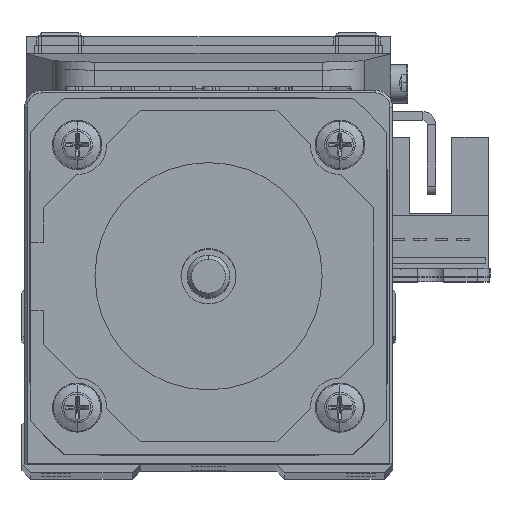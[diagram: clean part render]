
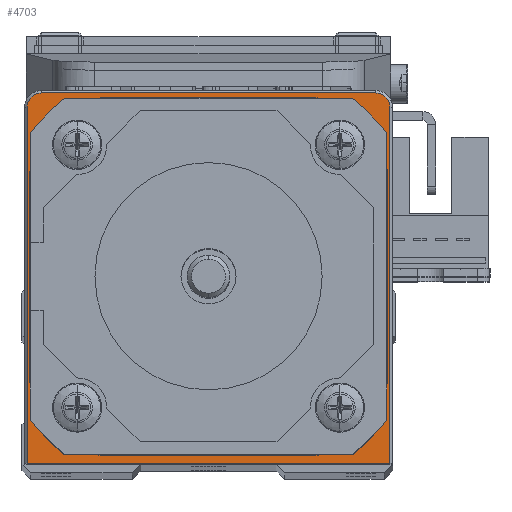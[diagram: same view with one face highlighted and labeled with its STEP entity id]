
A CAD part, top view. The second image highlights one B-rep face of the part: STEP entity #4703.
In plain terms, the highlighted planar face has unit normal (0, 0, 1).
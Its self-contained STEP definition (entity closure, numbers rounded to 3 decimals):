
#959 = VERTEX_POINT ( 'NONE', #26956 ) ;
#1696 = EDGE_CURVE ( 'NONE', #40074, #33334, #71675, .T. ) ;
#2711 = CARTESIAN_POINT ( 'NONE',  ( -19.7, 21.7, 26.5 ) ) ;
#3236 = CIRCLE ( 'NONE', #45871, 1.7 ) ;
#3267 = PLANE ( 'NONE',  #11215 ) ;
#3287 = CARTESIAN_POINT ( 'NONE',  ( 19.7, 20., 26.5 ) ) ;
#4012 = VECTOR ( 'NONE', #4159, 1000. ) ;
#4159 = DIRECTION ( 'NONE',  ( 0., 1., 0. ) ) ;
#4535 = EDGE_LOOP ( 'NONE', ( #69820, #58933 ) ) ;
#4703 = ADVANCED_FACE ( 'NONE', ( #32248, #55539 ), #3267, .T. ) ;
#8451 = CARTESIAN_POINT ( 'NONE',  ( -10., 0., 26.5 ) ) ;
#8593 = ORIENTED_EDGE ( 'NONE', *, *, #18807, .T. ) ;
#9533 = CARTESIAN_POINT ( 'NONE',  ( -21.4, -22., 26.5 ) ) ;
#10273 = VECTOR ( 'NONE', #68382, 1000. ) ;
#11215 = AXIS2_PLACEMENT_3D ( 'NONE', #26518, #49791, #73061 ) ;
#13456 = CIRCLE ( 'NONE', #56147, 10. ) ;
#15511 = DIRECTION ( 'NONE',  ( 1., 0., 0. ) ) ;
#17006 = EDGE_CURVE ( 'NONE', #36954, #959, #33148, .T. ) ;
#17547 = VERTEX_POINT ( 'NONE', #39522 ) ;
#17678 = CARTESIAN_POINT ( 'NONE',  ( 0., 0., 26.5 ) ) ;
#18807 = EDGE_CURVE ( 'NONE', #49327, #36954, #44519, .T. ) ;
#19705 = ORIENTED_EDGE ( 'NONE', *, *, #32133, .T. ) ;
#20085 = ORIENTED_EDGE ( 'NONE', *, *, #50710, .T. ) ;
#20377 = DIRECTION ( 'NONE',  ( 0., 0., 1. ) ) ;
#21809 = LINE ( 'NONE', #45084, #10273 ) ;
#22104 = CARTESIAN_POINT ( 'NONE',  ( -19.7, 20., 26.5 ) ) ;
#24690 = LINE ( 'NONE', #47978, #54059 ) ;
#26518 = CARTESIAN_POINT ( 'NONE',  ( 0., 0., 26.5 ) ) ;
#26541 = DIRECTION ( 'NONE',  ( 0., 0., 1. ) ) ;
#26956 = CARTESIAN_POINT ( 'NONE',  ( 21.4, 20., 26.5 ) ) ;
#30177 = ORIENTED_EDGE ( 'NONE', *, *, #39156, .T. ) ;
#30771 = EDGE_LOOP ( 'NONE', ( #8593, #69452, #30177, #49394, #20085, #19705 ) ) ;
#31372 = CIRCLE ( 'NONE', #74021, 1.7 ) ;
#32133 = EDGE_CURVE ( 'NONE', #69172, #49327, #21809, .T. ) ;
#32248 = FACE_OUTER_BOUND ( 'NONE', #30771, .T. ) ;
#33148 = LINE ( 'NONE', #56436, #4012 ) ;
#33334 = VERTEX_POINT ( 'NONE', #53813 ) ;
#36954 = VERTEX_POINT ( 'NONE', #67184 ) ;
#38786 = AXIS2_PLACEMENT_3D ( 'NONE', #17678, #40983, #64253 ) ;
#39156 = EDGE_CURVE ( 'NONE', #959, #17547, #31372, .T. ) ;
#39522 = CARTESIAN_POINT ( 'NONE',  ( 19.7, 21.7, 26.5 ) ) ;
#40074 = VERTEX_POINT ( 'NONE', #8451 ) ;
#40983 = DIRECTION ( 'NONE',  ( 0., 0., 1. ) ) ;
#43649 = DIRECTION ( 'NONE',  ( 1., 0., 0. ) ) ;
#44012 = EDGE_CURVE ( 'NONE', #33334, #40074, #13456, .T. ) ;
#44519 = LINE ( 'NONE', #67824, #62781 ) ;
#45084 = CARTESIAN_POINT ( 'NONE',  ( -21.4, -22., 26.5 ) ) ;
#45379 = DIRECTION ( 'NONE',  ( 0., 0., 1. ) ) ;
#45871 = AXIS2_PLACEMENT_3D ( 'NONE', #22104, #45379, #68683 ) ;
#47415 = EDGE_CURVE ( 'NONE', #17547, #64928, #24690, .T. ) ;
#47978 = CARTESIAN_POINT ( 'NONE',  ( -19.7, 21.7, 26.5 ) ) ;
#49327 = VERTEX_POINT ( 'NONE', #9533 ) ;
#49394 = ORIENTED_EDGE ( 'NONE', *, *, #47415, .T. ) ;
#49791 = DIRECTION ( 'NONE',  ( 0., 0., 1. ) ) ;
#49811 = DIRECTION ( 'NONE',  ( 1., 0., 0. ) ) ;
#50710 = EDGE_CURVE ( 'NONE', #64928, #69172, #3236, .T. ) ;
#53471 = CARTESIAN_POINT ( 'NONE',  ( -21.4, 20., 26.5 ) ) ;
#53813 = CARTESIAN_POINT ( 'NONE',  ( 10., 0., 26.5 ) ) ;
#54059 = VECTOR ( 'NONE', #71259, 1000. ) ;
#55539 = FACE_BOUND ( 'NONE', #4535, .T. ) ;
#56147 = AXIS2_PLACEMENT_3D ( 'NONE', #72650, #20377, #43649 ) ;
#56436 = CARTESIAN_POINT ( 'NONE',  ( 21.4, 20., 26.5 ) ) ;
#58933 = ORIENTED_EDGE ( 'NONE', *, *, #44012, .F. ) ;
#62781 = VECTOR ( 'NONE', #15511, 1000. ) ;
#64253 = DIRECTION ( 'NONE',  ( 1., 0., 0. ) ) ;
#64928 = VERTEX_POINT ( 'NONE', #2711 ) ;
#67184 = CARTESIAN_POINT ( 'NONE',  ( 21.4, -22., 26.5 ) ) ;
#67824 = CARTESIAN_POINT ( 'NONE',  ( -21.7, -22., 26.5 ) ) ;
#68382 = DIRECTION ( 'NONE',  ( 0., -1., 0. ) ) ;
#68683 = DIRECTION ( 'NONE',  ( 1., 0., 0. ) ) ;
#69172 = VERTEX_POINT ( 'NONE', #53471 ) ;
#69452 = ORIENTED_EDGE ( 'NONE', *, *, #17006, .T. ) ;
#69820 = ORIENTED_EDGE ( 'NONE', *, *, #1696, .F. ) ;
#71259 = DIRECTION ( 'NONE',  ( -1., 0., 0. ) ) ;
#71675 = CIRCLE ( 'NONE', #38786, 10. ) ;
#72650 = CARTESIAN_POINT ( 'NONE',  ( 0., 0., 26.5 ) ) ;
#73061 = DIRECTION ( 'NONE',  ( 1., 0., 0. ) ) ;
#74021 = AXIS2_PLACEMENT_3D ( 'NONE', #3287, #26541, #49811 ) ;
